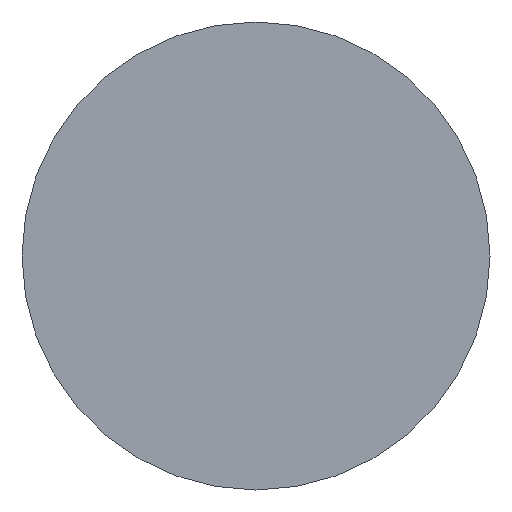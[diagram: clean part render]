
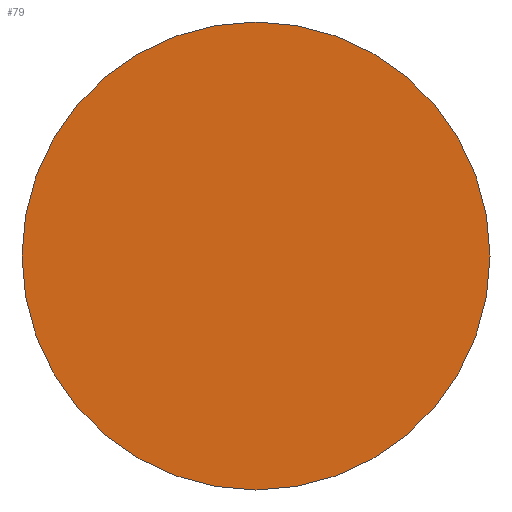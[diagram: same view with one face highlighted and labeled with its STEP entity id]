
A CAD part, front view. The second image highlights one B-rep face of the part: STEP entity #79.
In plain terms, the highlighted planar face has unit normal (0, -1, 0).
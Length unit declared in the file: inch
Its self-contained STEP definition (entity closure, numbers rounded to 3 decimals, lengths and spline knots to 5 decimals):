
#15=PLANE('',#105);
#23=FACE_OUTER_BOUND('',#27,.T.);
#27=EDGE_LOOP('',(#73,#74));
#35=CIRCLE('',#103,0.125);
#36=CIRCLE('',#104,0.125);
#43=VERTEX_POINT('',#176);
#44=VERTEX_POINT('',#177);
#52=EDGE_CURVE('',#43,#44,#35,.T.);
#53=EDGE_CURVE('',#44,#43,#36,.T.);
#73=ORIENTED_EDGE('',*,*,#52,.T.);
#74=ORIENTED_EDGE('',*,*,#53,.T.);
#79=ADVANCED_FACE('',(#23),#15,.T.);
#103=AXIS2_PLACEMENT_3D('',#178,#126,#127);
#104=AXIS2_PLACEMENT_3D('',#179,#128,#129);
#105=AXIS2_PLACEMENT_3D('',#181,#131,#132);
#126=DIRECTION('center_axis',(0.,-1.,0.));
#127=DIRECTION('ref_axis',(1.,0.,0.));
#128=DIRECTION('center_axis',(0.,-1.,0.));
#129=DIRECTION('ref_axis',(1.,0.,0.));
#131=DIRECTION('center_axis',(0.,-1.,0.));
#132=DIRECTION('ref_axis',(0.,0.,-1.));
#176=CARTESIAN_POINT('',(0.125,0.,0.));
#177=CARTESIAN_POINT('',(-0.125,0.,0.));
#178=CARTESIAN_POINT('Origin',(0.,0.,0.));
#179=CARTESIAN_POINT('Origin',(0.,0.,0.));
#181=CARTESIAN_POINT('Origin',(0.,0.,0.));
